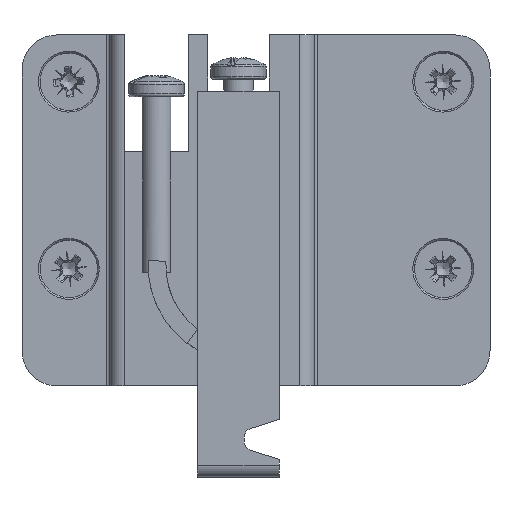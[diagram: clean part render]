
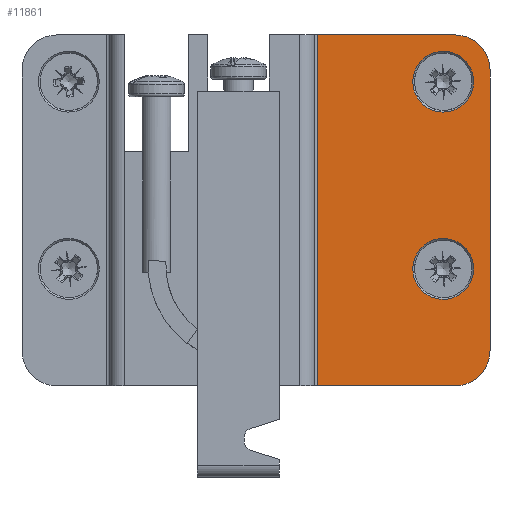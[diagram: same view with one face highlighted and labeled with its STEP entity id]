
A CAD part, left-side view. The second image highlights one B-rep face of the part: STEP entity #11861.
In plain terms, the highlighted planar face has unit normal (-1, 0, 0).
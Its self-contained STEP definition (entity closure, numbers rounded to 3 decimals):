
#1243=CARTESIAN_POINT('',(-23.781,0.191,-51.899));
#1244=VERTEX_POINT('',#1243);
#1252=CARTESIAN_POINT('',(-23.781,0.191,8.101));
#1253=VERTEX_POINT('',#1252);
#1254=CARTESIAN_POINT('',(-23.781,0.191,-51.899));
#1255=DIRECTION('',(0.0,0.0,1.0));
#1256=VECTOR('',#1255,60.0);
#1257=LINE('',#1254,#1256);
#1258=EDGE_CURVE('',#1244,#1253,#1257,.T.);
#2663=CARTESIAN_POINT('',(-23.781,-29.309,-45.899));
#2664=VERTEX_POINT('',#2663);
#2673=CARTESIAN_POINT('',(-23.781,-23.309,-51.899));
#2674=VERTEX_POINT('',#2673);
#2675=CARTESIAN_POINT('',(-23.781,-23.309,-45.899));
#2676=DIRECTION('',(-1.0,0.0,0.0));
#2677=DIRECTION('',(0.0,-1.0,0.0));
#2678=AXIS2_PLACEMENT_3D('',#2675,#2676,#2677);
#2679=CIRCLE('',#2678,6.0);
#2680=EDGE_CURVE('',#2674,#2664,#2679,.T.);
#2753=CARTESIAN_POINT('',(-23.781,-23.309,8.101));
#2754=VERTEX_POINT('',#2753);
#2761=CARTESIAN_POINT('',(-23.781,-29.309,2.101));
#2762=VERTEX_POINT('',#2761);
#2763=CARTESIAN_POINT('',(-23.781,-23.309,2.101));
#2764=DIRECTION('',(1.0,0.0,0.0));
#2765=DIRECTION('',(0.0,-1.0,0.0));
#2766=AXIS2_PLACEMENT_3D('',#2763,#2764,#2765);
#2767=CIRCLE('',#2766,6.0);
#2768=EDGE_CURVE('',#2754,#2762,#2767,.T.);
#3461=CARTESIAN_POINT('',(-23.781,-23.309,-51.899));
#3462=DIRECTION('',(0.0,1.0,0.0));
#3463=VECTOR('',#3462,23.5);
#3464=LINE('',#3461,#3463);
#3465=EDGE_CURVE('',#2674,#1244,#3464,.T.);
#3504=CARTESIAN_POINT('',(-23.781,-29.309,-45.899));
#3505=DIRECTION('',(0.0,0.0,1.0));
#3506=VECTOR('',#3505,48.0);
#3507=LINE('',#3504,#3506);
#3508=EDGE_CURVE('',#2664,#2762,#3507,.T.);
#3520=CARTESIAN_POINT('',(-23.781,-23.309,8.101));
#3521=DIRECTION('',(0.0,1.0,0.0));
#3522=VECTOR('',#3521,23.5);
#3523=LINE('',#3520,#3522);
#3524=EDGE_CURVE('',#2754,#1253,#3523,.T.);
#6635=CARTESIAN_POINT('',(-23.781,-16.495,2.067));
#6636=VERTEX_POINT('',#6635);
#6643=CARTESIAN_POINT('',(-23.781,-26.122,-1.866));
#6644=VERTEX_POINT('',#6643);
#6645=CARTESIAN_POINT('',(-23.781,-21.309,0.101));
#6646=DIRECTION('',(-1.0,0.0,0.0));
#6647=DIRECTION('',(0.0,0.926,0.378));
#6648=AXIS2_PLACEMENT_3D('',#6645,#6646,#6647);
#6649=CIRCLE('',#6648,5.2);
#6650=EDGE_CURVE('',#6636,#6644,#6649,.T.);
#6652=CARTESIAN_POINT('',(-23.781,-21.309,0.101));
#6653=DIRECTION('',(-1.0,0.0,0.0));
#6654=DIRECTION('',(0.0,0.926,0.378));
#6655=AXIS2_PLACEMENT_3D('',#6652,#6653,#6654);
#6656=CIRCLE('',#6655,5.2);
#6657=EDGE_CURVE('',#6644,#6636,#6656,.T.);
#6877=CARTESIAN_POINT('',(-23.781,-16.495,-29.933));
#6878=VERTEX_POINT('',#6877);
#6885=CARTESIAN_POINT('',(-23.781,-26.122,-33.866));
#6886=VERTEX_POINT('',#6885);
#6887=CARTESIAN_POINT('',(-23.781,-21.309,-31.899));
#6888=DIRECTION('',(-1.0,0.0,0.0));
#6889=DIRECTION('',(0.0,0.926,0.378));
#6890=AXIS2_PLACEMENT_3D('',#6887,#6888,#6889);
#6891=CIRCLE('',#6890,5.2);
#6892=EDGE_CURVE('',#6878,#6886,#6891,.T.);
#6894=CARTESIAN_POINT('',(-23.781,-21.309,-31.899));
#6895=DIRECTION('',(-1.0,0.0,0.0));
#6896=DIRECTION('',(0.0,0.926,0.378));
#6897=AXIS2_PLACEMENT_3D('',#6894,#6895,#6896);
#6898=CIRCLE('',#6897,5.2);
#6899=EDGE_CURVE('',#6886,#6878,#6898,.T.);
#11840=CARTESIAN_POINT('',(-23.781,-29.309,-51.899));
#11841=DIRECTION('',(1.0,0.0,0.0));
#11842=DIRECTION('',(0.0,1.0,0.0));
#11843=AXIS2_PLACEMENT_3D('',#11840,#11841,#11842);
#11844=PLANE('',#11843);
#11845=ORIENTED_EDGE('',*,*,#2680,.T.);
#11846=ORIENTED_EDGE('',*,*,#3508,.T.);
#11847=ORIENTED_EDGE('',*,*,#2768,.F.);
#11848=ORIENTED_EDGE('',*,*,#3524,.T.);
#11849=ORIENTED_EDGE('',*,*,#1258,.F.);
#11850=ORIENTED_EDGE('',*,*,#3465,.F.);
#11851=EDGE_LOOP('',(#11845,#11846,#11847,#11848,#11849,#11850));
#11852=FACE_OUTER_BOUND('',#11851,.T.);
#11853=ORIENTED_EDGE('',*,*,#6657,.F.);
#11854=ORIENTED_EDGE('',*,*,#6650,.F.);
#11855=EDGE_LOOP('',(#11853,#11854));
#11856=FACE_BOUND('',#11855,.T.);
#11857=ORIENTED_EDGE('',*,*,#6899,.F.);
#11858=ORIENTED_EDGE('',*,*,#6892,.F.);
#11859=EDGE_LOOP('',(#11857,#11858));
#11860=FACE_BOUND('',#11859,.T.);
#11861=ADVANCED_FACE('',(#11852,#11856,#11860),#11844,.F.);
